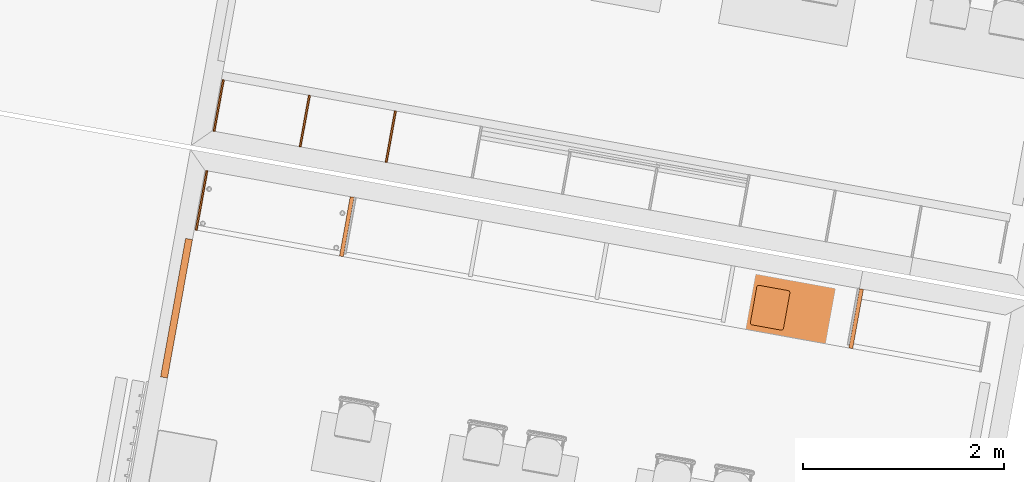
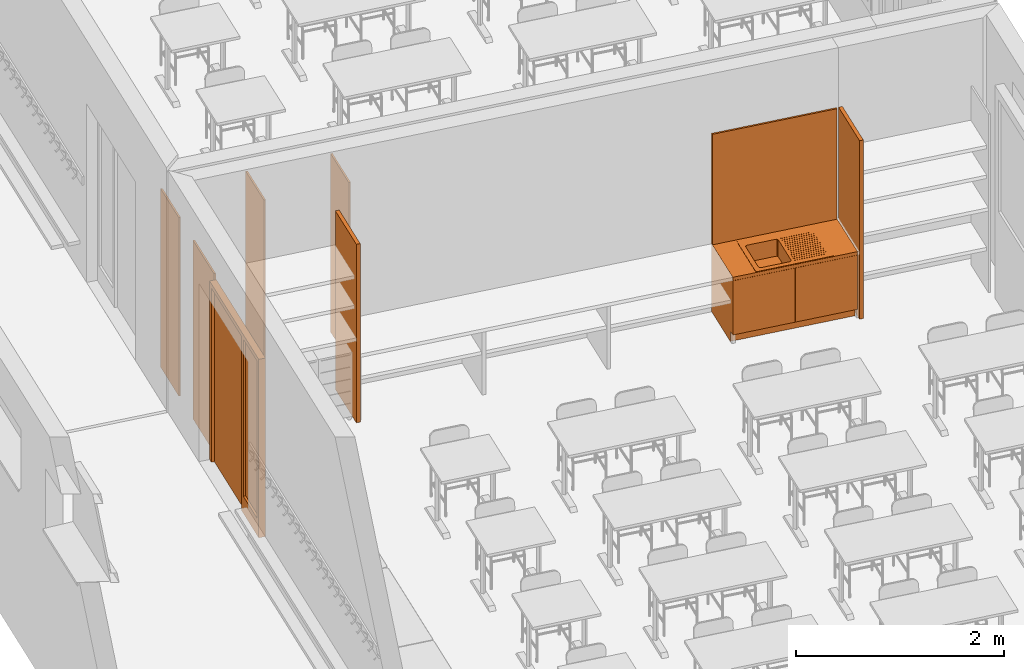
# One storey, part 39 of 79: 8 proxies.
"""IFC2X3 building model written with IfcOpenShell, lengths in metres."""

from ifc_helpers import new_model, entity, si_unit, converted_unit, derived_unit, money_unit, direction, frame, origin_with_axes, place, context, subcontext, project, spatial, polyline, outline, extrude, open_shell, faceted_brep, surface_model, source, transform, mapped, material, type_object, element, save


model = new_model("IFC2X3")

# Units and contexts
model_context = context("Model", 3, precision=1e-05, world=origin_with_axes(), true_north=direction((0.0, 1.0)))
body_context = subcontext(model_context, "Body", "Model", "MODEL_VIEW")
ifc_project = project(units=[si_unit("LENGTHUNIT", "METRE"), si_unit("AREAUNIT", "SQUARE_METRE"), si_unit("VOLUMEUNIT", "CUBIC_METRE"), converted_unit("PLANEANGLEUNIT", "DEGREE", entity("IfcPlaneAngleMeasure", 0.0174532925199), si_unit("PLANEANGLEUNIT", "RADIAN"), dimensions=[0, 0, 0, 0, 0, 0, 0]), money_unit("CHF"), converted_unit("TIMEUNIT", "Year", entity("IfcTimeMeasure", 31556926.0), si_unit("TIMEUNIT", "SECOND"), dimensions=[0, 0, 1, 0, 0, 0, 0]), si_unit("MASSUNIT", "GRAM", prefix="KILO"), si_unit("THERMODYNAMICTEMPERATUREUNIT", "DEGREE_CELSIUS"), si_unit("LUMINOUSINTENSITYUNIT", "LUMEN"), si_unit("ENERGYUNIT", "JOULE", prefix="MEGA"), derived_unit("THERMALCONDUCTANCEUNIT", [(si_unit("POWERUNIT", "WATT"), 1), (si_unit("LENGTHUNIT", "METRE"), -1), (si_unit("THERMODYNAMICTEMPERATUREUNIT", "KELVIN"), -1)]), derived_unit("SPECIFICHEATCAPACITYUNIT", [(si_unit("ENERGYUNIT", "JOULE"), 1), (si_unit("MASSUNIT", "GRAM", prefix="KILO"), -1), (si_unit("THERMODYNAMICTEMPERATUREUNIT", "KELVIN"), -1)]), derived_unit("MASSDENSITYUNIT", [(si_unit("MASSUNIT", "GRAM", prefix="KILO"), 1), (si_unit("VOLUMEUNIT", "CUBIC_METRE"), -1)])], contexts=[model_context])

# Site, building, storey
site_placement = place(None, frame((0.0, 0.0, 0.0), z_axis=(0.0, 0.0, 1.0), x_axis=(-0.177771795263, -0.984071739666, 0.0)))
site = spatial("IfcSite", under=ifc_project, at=site_placement, Name="Site", CompositionType="ELEMENT")
building_placement = place(site_placement, origin_with_axes())
building = spatial("IfcBuilding", under=site, at=building_placement, Name="Bâtiment", CompositionType="ELEMENT")
storey_placement = place(building_placement, origin_with_axes())
storey = spatial("IfcBuildingStorey", under=building, at=storey_placement, Name="RDC", CompositionType="ELEMENT", Elevation=0.0)

# Proxies
ifc_material_1 = material(Name="_panneau mélaminé")
building_element_proxy_type_1 = type_object("IfcBuildingElementProxyType", Name="_panneau mélaminé 40", PredefinedType="NOTDEFINED")
proxy_1_placement = place(storey_placement, frame((129.284841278, -149.826151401, 0.0), z_axis=(0.0, 0.0, 1.0), x_axis=(-1.0, 0.0, 0.0)))
element("IfcBuildingElementProxy", 1, at=proxy_1_placement, inside=storey, type_object=building_element_proxy_type_1, material=ifc_material_1, Name="cloison-fd-classe D", context=body_context, shape_type="SweptSolid", body=[
    extrude(outline(polyline([(0.0, -0.04), (0.600000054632, -0.04), (0.600000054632, 0.0), (0.0, 0.0), (0.0, -0.04)])), origin_with_axes(), (0.0, 0.0, 1.0), 2.1),
])
proxy_2_placement = place(storey_placement, frame((129.284841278, -154.978236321, 0.0), z_axis=(0.0, 0.0, 1.0), x_axis=(-1.0, 0.0, 0.0)))
element("IfcBuildingElementProxy", 2, at=proxy_2_placement, inside=storey, type_object=building_element_proxy_type_1, material=ifc_material_1, Name="cloison-fd-classe G", context=body_context, shape_type="SweptSolid", body=[
    extrude(outline(polyline([(0.0, -0.04), (0.600000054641, -0.04), (0.600000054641, 0.0), (0.0, 0.0), (0.0, -0.04)])), origin_with_axes(), (0.0, 0.0, 1.0), 2.1),
])
building_element_proxy_type_2 = type_object("IfcBuildingElementProxyType", Name="_panneau mélaminé 19", PredefinedType="NOTDEFINED")
proxy_3_placement = place(storey_placement, frame((129.284841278, -156.418151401, 0.0), z_axis=(0.0, 0.0, 1.0), x_axis=(-1.0, 0.0, 0.0)))
element("IfcBuildingElementProxy", 3, at=proxy_3_placement, inside=storey, type_object=building_element_proxy_type_2, material=ifc_material_1, Name="cloison-fd-classe G", context=body_context, shape_type="SweptSolid", body=[
    extrude(outline(polyline([(0.0, 0.0), (0.600000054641, 0.0), (0.600000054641, 0.019), (0.0, 0.019), (0.0, 0.0)])), origin_with_axes(), (0.0, 0.0, 1.0), 2.1),
])
for number, where, z_axis, x_axis, name in (
    (4, (128.284841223, -154.686651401, 0.0), (0.0, 0.0, 1.0), (-1.0, 0.0, 0.0), "cloison pl-classe"),
    (5, (128.284841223, -155.556651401, 0.0), (0.0, 0.0, 1.0), (-1.0, 0.0, 0.0), "cloison pl-classe"),
):
    element("IfcBuildingElementProxy", number, at=place(storey_placement, frame(where, z_axis=z_axis, x_axis=x_axis)), inside=storey, type_object=building_element_proxy_type_2, material=ifc_material_1, Name=name, context=body_context, shape_type="SweptSolid", body=[
        extrude(outline(polyline([(0.0, -0.0095), (0.519999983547, -0.0095), (0.519999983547, 0.0095), (0.0, 0.0095), (0.0, -0.0095)])), origin_with_axes(), (0.0, 0.0, 1.0), 2.1),
    ])
proxy_4_placement = place(storey_placement, frame((128.284841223, -156.418136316, 0.0), z_axis=(0.0, 0.0, 1.0), x_axis=(-1.0, 0.0, 0.0)))
element("IfcBuildingElementProxy", 6, at=proxy_4_placement, inside=storey, type_object=building_element_proxy_type_2, material=ifc_material_1, Name="cloison pl-classe", context=body_context, shape_type="SweptSolid", body=[
    extrude(outline(polyline([(0.0, 0.0), (0.519999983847, 0.0), (0.519999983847, 0.019), (0.0, 0.019), (0.0, 0.0)])), origin_with_axes(), (0.0, 0.0, 1.0), 2.1),
])
ifc_material_2 = material(Name="Matériau de construction IFC")
building_element_proxy_type_3 = type_object("IfcBuildingElementProxyType", Name="Porte avec tierce vitrée côté 2 21", PredefinedType="NOTDEFINED")
shared_shape_1 = source(origin_with_axes(), body_context, "Body", "SurfaceModel", [
    faceted_brep([(1.4, 0.18, 0.0), (1.4, 0.11, 0.0), (1.35, 0.11, 0.0), (1.35, 0.18, 0.0), (1.4, 0.18, 2.05), (1.4, 0.11, 2.05), (1.35, 0.11, 2.05), (1.35, 0.11, 0.2), (1.35, 0.18, 0.2), (1.35, 0.18, 2.05)], [[[0, 1, 2, 3]], [[4, 5, 1, 0]], [[1, 5, 6, 7, 2]], [[3, 2, 7, 8]], [[0, 3, 8, 9, 4]], [[9, 6, 5, 4]], [[8, 7, 6, 9]]]),
    faceted_brep([(0.91, 0.14, 0.0), (0.91, 0.11, 0.0), (0.91, 0.11, 2.05), (0.91, 0.14, 2.05), (0.93, 0.14, 0.0), (0.93, 0.18, 0.0), (0.96, 0.18, 0.0), (0.96, 0.11, 0.0), (0.96, 0.11, 0.2), (0.96, 0.11, 2.05), (0.93, 0.14, 2.05), (0.96, 0.18, 2.05), (0.93, 0.18, 2.05), (0.96, 0.18, 0.2)], [[[0, 1, 2, 3]], [[4, 5, 6, 7, 1, 0]], [[7, 8, 9, 2, 1]], [[10, 3, 2, 9, 11, 12]], [[10, 4, 0, 3]], [[12, 5, 4, 10]], [[12, 11, 13, 6, 5]], [[6, 13, 8, 7]], [[13, 11, 9, 8]]]),
    faceted_brep([(1.35, 0.18, 0.2), (1.35, 0.11, 0.2), (1.35, 0.11, 0.0), (1.35, 0.18, 0.0), (0.96, 0.18, 0.2), (0.96, 0.11, 0.2), (0.96, 0.11, 0.0), (0.96, 0.18, 0.0)], [[[0, 1, 2, 3]], [[4, 5, 1, 0]], [[1, 5, 6, 2]], [[3, 2, 6, 7]], [[0, 3, 7, 4]], [[7, 6, 5, 4]]]),
    faceted_brep([(0.03, 0.14, 2.05), (0.03, 0.18, 2.05), (0.0, 0.18, 2.05), (0.0, 0.11, 2.05), (0.05, 0.11, 2.05), (0.05, 0.14, 2.05), (0.03, 0.14, 0.0), (0.03, 0.18, 0.0), (0.0, 0.18, 0.0), (0.0, 0.11, 0.0), (0.05, 0.11, 0.0), (0.05, 0.14, 0.0)], [[[0, 1, 2, 3, 4, 5]], [[0, 6, 7, 1]], [[7, 8, 2, 1]], [[2, 8, 9, 3]], [[3, 9, 10, 4]], [[5, 4, 10, 11]], [[5, 11, 6, 0]], [[6, 11, 10, 9, 8, 7]]]),
    faceted_brep([(0.93, 0.18, 2.07), (0.03, 0.18, 2.07), (0.03, 0.18, 2.05), (0.0, 0.18, 2.05), (0.0, 0.18, 2.1), (1.4, 0.18, 2.1), (1.4, 0.18, 2.05), (1.35, 0.18, 2.05), (0.96, 0.18, 2.05), (0.93, 0.18, 2.05), (0.93, 0.14, 2.07), (0.03, 0.14, 2.07), (0.03, 0.14, 2.05), (0.05, 0.14, 2.05), (0.05, 0.11, 2.05), (0.0, 0.11, 2.05), (0.0, 0.11, 2.1), (1.4, 0.11, 2.1), (1.4, 0.11, 2.05), (1.35, 0.11, 2.05), (0.96, 0.11, 2.05), (0.93, 0.14, 2.05), (0.91, 0.11, 2.05)], [[[0, 1, 2, 3, 4, 5, 6, 7, 8, 9]], [[0, 10, 11, 1]], [[1, 11, 12, 2]], [[12, 13, 14, 15, 3, 2]], [[4, 3, 15, 16]], [[5, 4, 16, 17]], [[6, 5, 17, 18]], [[7, 6, 18, 19]], [[8, 7, 19, 20]], [[21, 9, 8, 20, 22, 14, 13]], [[9, 21, 10, 0]], [[12, 11, 10, 21, 13]], [[14, 22, 20, 19, 18, 17, 16, 15]]]),
    faceted_brep([(0.03, 0.18, 0.0), (0.93, 0.18, 0.0), (0.93, 0.14, 0.0), (0.03, 0.14, 0.0), (0.03, 0.18, 2.07), (0.93, 0.18, 2.07), (0.93, 0.14, 2.07), (0.03, 0.14, 2.07)], [[[0, 1, 2, 3]], [[0, 4, 5, 1]], [[1, 5, 6, 2]], [[3, 2, 6, 7]], [[4, 0, 3, 7]], [[5, 4, 7, 6]]]),
    surface_model("IfcShellBasedSurfaceModel", [(1.35, 0.145, 0.2), (0.96, 0.145, 0.2), (0.96, 0.145, 2.05), (1.35, 0.145, 2.05)], [open_shell([[[0, 1, 2, 3]]])]),
    surface_model("IfcShellBasedSurfaceModel", [(1.35, 0.135, 0.2), (1.35, 0.135, 2.05), (0.96, 0.135, 2.05), (0.96, 0.135, 0.2)], [open_shell([[[0, 1, 2, 3]]])]),
])
proxy_5_placement = place(storey_placement, frame((129.384841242, -156.62715131, 0.0), z_axis=(0.0, 0.0, 1.0), x_axis=(1.0, 1.02782532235e-07, 0.0)))
element("IfcBuildingElementProxy", 7, at=proxy_5_placement, inside=storey, type_object=building_element_proxy_type_3, material=ifc_material_2, Name="5", context=body_context, shape_type="MappedRepresentation", body=[
    mapped(shared_shape_1, transform((0.0, 0.0, 0.0))),
])
building_element_proxy_type_4 = type_object("IfcBuildingElementProxyType", Name="Elément simple avec deux portes 21", PredefinedType="NOTDEFINED")
shared_shape_2 = source(origin_with_axes(), body_context, "Body", "SurfaceModel", [
    surface_model("IfcShellBasedSurfaceModel", [(0.5, 0.600000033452, 0.733), (0.496505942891, 0.600000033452, 0.733460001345), (0.496505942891, 0.620000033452, 0.733460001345), (0.5, 0.620000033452, 0.733), (0.49325, 0.600000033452, 0.734808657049), (0.49325, 0.620000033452, 0.734808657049), (0.503494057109, 0.600000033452, 0.733460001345), (0.503494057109, 0.620000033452, 0.733460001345), (0.490454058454, 0.600000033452, 0.736954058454), (0.490454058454, 0.620000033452, 0.736954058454), (0.50675, 0.600000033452, 0.734808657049), (0.50675, 0.620000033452, 0.734808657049), (0.488308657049, 0.600000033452, 0.73975), (0.488308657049, 0.620000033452, 0.73975), (0.509545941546, 0.600000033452, 0.736954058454), (0.509545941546, 0.620000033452, 0.736954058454), (0.486960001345, 0.600000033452, 0.743005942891), (0.486960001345, 0.620000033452, 0.743005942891), (0.511691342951, 0.600000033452, 0.73975), (0.511691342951, 0.620000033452, 0.73975), (0.4865, 0.600000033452, 0.7465), (0.4865, 0.620000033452, 0.7465), (0.513039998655, 0.600000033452, 0.743005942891), (0.513039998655, 0.620000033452, 0.743005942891), (0.486960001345, 0.600000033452, 0.749994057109), (0.486960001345, 0.620000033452, 0.749994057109), (0.5135, 0.600000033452, 0.7465), (0.5135, 0.620000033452, 0.7465), (0.488308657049, 0.600000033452, 0.75325), (0.488308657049, 0.620000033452, 0.75325), (0.513039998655, 0.600000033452, 0.749994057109), (0.513039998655, 0.620000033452, 0.749994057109), (0.490454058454, 0.600000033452, 0.756045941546), (0.490454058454, 0.620000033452, 0.756045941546), (0.511691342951, 0.600000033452, 0.75325), (0.511691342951, 0.620000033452, 0.75325), (0.49325, 0.600000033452, 0.758191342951), (0.49325, 0.620000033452, 0.758191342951), (0.509545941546, 0.600000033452, 0.756045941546), (0.509545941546, 0.620000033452, 0.756045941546), (0.496505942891, 0.600000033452, 0.759539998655), (0.496505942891, 0.620000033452, 0.759539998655), (0.50675, 0.600000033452, 0.758191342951), (0.50675, 0.620000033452, 0.758191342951), (0.5, 0.600000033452, 0.76), (0.5, 0.620000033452, 0.76), (0.503494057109, 0.600000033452, 0.759539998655), (0.503494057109, 0.620000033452, 0.759539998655)], [open_shell([[[0, 1, 2, 3]], [[1, 4, 5, 2]], [[6, 0, 3, 7]], [[4, 8, 9, 5]], [[10, 6, 7, 11]], [[8, 12, 13, 9]], [[14, 10, 11, 15]], [[12, 16, 17, 13]], [[18, 14, 15, 19]], [[16, 20, 21, 17]], [[22, 18, 19, 23]], [[20, 24, 25, 21]], [[26, 22, 23, 27]], [[24, 28, 29, 25]], [[30, 26, 27, 31]], [[28, 32, 33, 29]], [[34, 30, 31, 35]], [[32, 36, 37, 33]], [[38, 34, 35, 39]], [[36, 40, 41, 37]], [[42, 38, 39, 43]], [[40, 44, 45, 41]], [[46, 42, 43, 47]], [[44, 46, 47, 45]]])]),
    surface_model("IfcShellBasedSurfaceModel", [(0.7, 0.600000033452, 0.733), (0.696505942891, 0.600000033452, 0.733460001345), (0.696505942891, 0.620000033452, 0.733460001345), (0.7, 0.620000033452, 0.733), (0.69325, 0.600000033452, 0.734808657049), (0.69325, 0.620000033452, 0.734808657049), (0.703494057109, 0.600000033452, 0.733460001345), (0.703494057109, 0.620000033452, 0.733460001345), (0.690454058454, 0.600000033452, 0.736954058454), (0.690454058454, 0.620000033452, 0.736954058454), (0.70675, 0.600000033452, 0.734808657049), (0.70675, 0.620000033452, 0.734808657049), (0.688308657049, 0.600000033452, 0.73975), (0.688308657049, 0.620000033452, 0.73975), (0.709545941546, 0.600000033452, 0.736954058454), (0.709545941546, 0.620000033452, 0.736954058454), (0.686960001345, 0.600000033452, 0.743005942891), (0.686960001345, 0.620000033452, 0.743005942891), (0.711691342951, 0.600000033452, 0.73975), (0.711691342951, 0.620000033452, 0.73975), (0.6865, 0.600000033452, 0.7465), (0.6865, 0.620000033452, 0.7465), (0.713039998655, 0.600000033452, 0.743005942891), (0.713039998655, 0.620000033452, 0.743005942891), (0.686960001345, 0.600000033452, 0.749994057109), (0.686960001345, 0.620000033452, 0.749994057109), (0.7135, 0.600000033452, 0.7465), (0.7135, 0.620000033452, 0.7465), (0.688308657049, 0.600000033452, 0.75325), (0.688308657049, 0.620000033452, 0.75325), (0.713039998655, 0.600000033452, 0.749994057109), (0.713039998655, 0.620000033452, 0.749994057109), (0.690454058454, 0.600000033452, 0.756045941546), (0.690454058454, 0.620000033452, 0.756045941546), (0.711691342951, 0.600000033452, 0.75325), (0.711691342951, 0.620000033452, 0.75325), (0.69325, 0.600000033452, 0.758191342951), (0.69325, 0.620000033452, 0.758191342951), (0.709545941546, 0.600000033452, 0.756045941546), (0.709545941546, 0.620000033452, 0.756045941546), (0.696505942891, 0.600000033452, 0.759539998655), (0.696505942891, 0.620000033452, 0.759539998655), (0.70675, 0.600000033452, 0.758191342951), (0.70675, 0.620000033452, 0.758191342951), (0.7, 0.600000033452, 0.76), (0.7, 0.620000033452, 0.76), (0.703494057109, 0.600000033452, 0.759539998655), (0.703494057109, 0.620000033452, 0.759539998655)], [open_shell([[[0, 1, 2, 3]], [[1, 4, 5, 2]], [[6, 0, 3, 7]], [[4, 8, 9, 5]], [[10, 6, 7, 11]], [[8, 12, 13, 9]], [[14, 10, 11, 15]], [[12, 16, 17, 13]], [[18, 14, 15, 19]], [[16, 20, 21, 17]], [[22, 18, 19, 23]], [[20, 24, 25, 21]], [[26, 22, 23, 27]], [[24, 28, 29, 25]], [[30, 26, 27, 31]], [[28, 32, 33, 29]], [[34, 30, 31, 35]], [[32, 36, 37, 33]], [[38, 34, 35, 39]], [[36, 40, 41, 37]], [[42, 38, 39, 43]], [[40, 44, 45, 41]], [[46, 42, 43, 47]], [[44, 46, 47, 45]]])]),
    surface_model("IfcShellBasedSurfaceModel", [(0.6, 0.600000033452, 0.579), (0.594564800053, 0.600000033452, 0.579715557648), (0.594564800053, 0.620000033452, 0.579715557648), (0.6, 0.620000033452, 0.579), (0.5895, 0.600000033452, 0.581813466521), (0.5895, 0.620000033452, 0.581813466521), (0.605435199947, 0.600000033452, 0.579715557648), (0.605435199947, 0.620000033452, 0.579715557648), (0.585150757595, 0.600000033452, 0.585150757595), (0.585150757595, 0.620000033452, 0.585150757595), (0.6105, 0.600000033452, 0.581813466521), (0.6105, 0.620000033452, 0.581813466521), (0.581813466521, 0.600000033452, 0.5895), (0.581813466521, 0.620000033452, 0.5895), (0.614849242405, 0.600000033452, 0.585150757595), (0.614849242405, 0.620000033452, 0.585150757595), (0.579715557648, 0.600000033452, 0.594564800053), (0.579715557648, 0.620000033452, 0.594564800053), (0.618186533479, 0.600000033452, 0.5895), (0.618186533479, 0.620000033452, 0.5895), (0.579, 0.600000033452, 0.6), (0.579, 0.620000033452, 0.6), (0.620284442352, 0.600000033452, 0.594564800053), (0.620284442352, 0.620000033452, 0.594564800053), (0.579715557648, 0.600000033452, 0.605435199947), (0.579715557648, 0.620000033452, 0.605435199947), (0.621, 0.600000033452, 0.6), (0.621, 0.620000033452, 0.6), (0.581813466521, 0.600000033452, 0.6105), (0.581813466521, 0.620000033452, 0.6105), (0.620284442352, 0.600000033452, 0.605435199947), (0.620284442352, 0.620000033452, 0.605435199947), (0.585150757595, 0.600000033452, 0.614849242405), (0.585150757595, 0.620000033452, 0.614849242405), (0.618186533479, 0.600000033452, 0.6105), (0.618186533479, 0.620000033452, 0.6105), (0.5895, 0.600000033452, 0.618186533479), (0.5895, 0.620000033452, 0.618186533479), (0.614849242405, 0.600000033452, 0.614849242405), (0.614849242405, 0.620000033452, 0.614849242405), (0.594564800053, 0.600000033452, 0.620284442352), (0.594564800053, 0.620000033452, 0.620284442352), (0.6105, 0.600000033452, 0.618186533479), (0.6105, 0.620000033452, 0.618186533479), (0.6, 0.600000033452, 0.621), (0.6, 0.620000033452, 0.621), (0.605435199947, 0.600000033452, 0.620284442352), (0.605435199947, 0.620000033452, 0.620284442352)], [open_shell([[[0, 1, 2, 3]], [[1, 4, 5, 2]], [[6, 0, 3, 7]], [[4, 8, 9, 5]], [[10, 6, 7, 11]], [[8, 12, 13, 9]], [[14, 10, 11, 15]], [[12, 16, 17, 13]], [[18, 14, 15, 19]], [[16, 20, 21, 17]], [[22, 18, 19, 23]], [[20, 24, 25, 21]], [[26, 22, 23, 27]], [[24, 28, 29, 25]], [[30, 26, 27, 31]], [[28, 32, 33, 29]], [[34, 30, 31, 35]], [[32, 36, 37, 33]], [[38, 34, 35, 39]], [[36, 40, 41, 37]], [[42, 38, 39, 43]], [[40, 44, 45, 41]], [[46, 42, 43, 47]], [[44, 46, 47, 45]]])]),
    faceted_brep([(0.0, 0.07, 0.0), (1.278, 0.07, 0.0), (1.278, 0.07, 0.12), (0.0, 0.07, 0.12), (0.0, 0.600000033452, 0.0), (1.278, 0.600000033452, 0.0), (1.278, 0.600000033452, 0.12), (0.0, 0.600000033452, 0.12)], [[[0, 1, 2, 3]], [[0, 4, 5, 1]], [[1, 5, 6, 2]], [[3, 2, 6, 7]], [[4, 0, 3, 7]], [[5, 4, 7, 6]]]),
    faceted_brep([(0.0, 0.02, 0.12), (0.02, 0.02, 0.12), (0.02, 0.02, 0.14), (0.0, 0.02, 0.14), (0.0, 0.600000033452, 0.12), (0.02, 0.600000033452, 0.12), (1.258, 0.600000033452, 0.12), (1.278, 0.600000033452, 0.12), (1.278, 0.02, 0.12), (1.258, 0.02, 0.12), (1.258, 0.02, 0.14), (1.278, 0.02, 0.14), (1.278, 0.600000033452, 0.14), (1.258, 0.600000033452, 0.14), (0.02, 0.600000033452, 0.14), (0.0, 0.600000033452, 0.14)], [[[0, 1, 2, 3]], [[0, 4, 5, 6, 7, 8, 9, 1]], [[1, 9, 10, 2]], [[3, 2, 10, 11, 12, 13, 14, 15]], [[4, 0, 3, 15]], [[5, 4, 15, 14]], [[6, 5, 14, 13]], [[7, 6, 13, 12]], [[8, 7, 12, 11]], [[9, 8, 11, 10]]]),
    faceted_brep([(0.0, 0.02, 0.14), (0.02, 0.02, 0.14), (0.02, 0.02, 0.76), (0.0, 0.02, 0.76), (0.0, 0.600000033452, 0.14), (1.278, 0.600000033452, 0.14), (1.278, 0.02, 0.14), (1.258, 0.02, 0.14), (1.258, 0.580000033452, 0.14), (0.02, 0.580000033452, 0.14), (0.02, 0.580000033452, 0.76), (1.258, 0.580000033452, 0.76), (1.258, 0.02, 0.76), (1.278, 0.02, 0.76), (1.278, 0.600000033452, 0.76), (0.0, 0.600000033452, 0.76)], [[[0, 1, 2, 3]], [[0, 4, 5, 6, 7, 8, 9, 1]], [[1, 9, 10, 2]], [[3, 2, 10, 11, 12, 13, 14, 15]], [[4, 0, 3, 15]], [[5, 4, 15, 14]], [[6, 5, 14, 13]], [[7, 6, 13, 12]], [[8, 7, 12, 11]], [[9, 8, 11, 10]]]),
    faceted_brep([(1.258, 0.02, 0.41), (1.258, 0.580000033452, 0.41), (1.258, 0.580000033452, 0.43), (1.258, 0.02, 0.43), (0.02, 0.02, 0.41), (0.02, 0.580000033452, 0.41), (0.02, 0.580000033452, 0.43), (0.02, 0.02, 0.43)], [[[0, 1, 2, 3]], [[0, 4, 5, 1]], [[1, 5, 6, 2]], [[3, 2, 6, 7]], [[4, 0, 3, 7]], [[5, 4, 7, 6]]]),
    surface_model("IfcShellBasedSurfaceModel", [(0.309, 0.0550000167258, 0.605), (0.604, 0.0550000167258, 0.605), (0.604, 0.0550000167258, 0.8), (0.309, 0.0550000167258, 0.8), (0.299, 0.0576795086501, 0.605), (0.291679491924, 0.0650000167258, 0.605), (0.289, 0.0750000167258, 0.605), (0.289, 0.435000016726, 0.605), (0.291679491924, 0.445000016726, 0.605), (0.299, 0.452320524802, 0.605), (0.309, 0.455000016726, 0.605), (0.604, 0.455000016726, 0.605), (0.614, 0.452320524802, 0.605), (0.621320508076, 0.445000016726, 0.605), (0.624, 0.435000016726, 0.605), (0.624, 0.0750000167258, 0.605), (0.618142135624, 0.0608578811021, 0.605), (0.618142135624, 0.0608578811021, 0.8), (0.299, 0.0576795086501, 0.8), (0.291679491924, 0.0650000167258, 0.8), (0.289, 0.0750000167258, 0.8), (0.289, 0.435000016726, 0.8), (0.291679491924, 0.445000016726, 0.8), (0.299, 0.452320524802, 0.8), (0.309, 0.455000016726, 0.8), (0.604, 0.455000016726, 0.8), (0.614, 0.452320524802, 0.8), (0.621320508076, 0.445000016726, 0.8), (0.624, 0.435000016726, 0.8), (0.624, 0.0750000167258, 0.8)], [open_shell([[[0, 1, 2, 3]], [[0, 4, 5, 6, 7, 8, 9, 10, 11, 12, 13, 14, 15, 16, 1]], [[1, 16, 17, 2]], [[4, 0, 3, 18]], [[5, 4, 18, 19]], [[6, 5, 19, 20]], [[7, 6, 20, 21]], [[8, 7, 21, 22]], [[9, 8, 22, 23]], [[10, 9, 23, 24]], [[11, 10, 24, 25]], [[12, 11, 25, 26]], [[13, 12, 26, 27]], [[14, 13, 27, 28]], [[15, 14, 28, 29]], [[16, 15, 29, 17]]])]),
    faceted_brep([(0.259, 0.00500001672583, 0.8), (1.019, 0.00500001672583, 0.8), (1.019, 0.00500001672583, 0.805), (0.259, 0.00500001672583, 0.805), (0.249, 0.00767950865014, 0.8), (0.241679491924, 0.0150000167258, 0.8), (0.239, 0.0250000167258, 0.8), (0.239, 0.535000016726, 0.8), (0.241679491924, 0.545000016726, 0.8), (0.249, 0.552320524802, 0.8), (0.259, 0.555000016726, 0.8), (1.019, 0.555000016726, 0.8), (1.029, 0.552320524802, 0.8), (1.03632050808, 0.545000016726, 0.8), (1.039, 0.535000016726, 0.8), (1.039, 0.0250000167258, 0.8), (1.03314213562, 0.0108578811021, 0.8), (0.309, 0.0550000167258, 0.8), (0.604, 0.0550000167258, 0.8), (0.618142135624, 0.0608578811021, 0.8), (0.624, 0.0750000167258, 0.8), (0.624, 0.435000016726, 0.8), (0.621320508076, 0.445000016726, 0.8), (0.614, 0.452320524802, 0.8), (0.604, 0.455000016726, 0.8), (0.309, 0.455000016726, 0.8), (0.299, 0.452320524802, 0.8), (0.291679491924, 0.445000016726, 0.8), (0.289, 0.435000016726, 0.8), (0.289, 0.0750000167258, 0.8), (0.291679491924, 0.0650000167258, 0.8), (0.299, 0.0576795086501, 0.8), (1.03314213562, 0.0108578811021, 0.805), (1.039, 0.0250000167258, 0.805), (1.039, 0.535000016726, 0.805), (1.03632050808, 0.545000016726, 0.805), (1.029, 0.552320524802, 0.805), (1.019, 0.555000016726, 0.805), (0.259, 0.555000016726, 0.805), (0.249, 0.552320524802, 0.805), (0.241679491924, 0.545000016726, 0.805), (0.239, 0.535000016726, 0.805), (0.239, 0.0250000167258, 0.805), (0.241679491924, 0.0150000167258, 0.805), (0.249, 0.00767950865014, 0.805), (0.309, 0.0550000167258, 0.805), (0.299, 0.0576795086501, 0.805), (0.291679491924, 0.0650000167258, 0.805), (0.289, 0.0750000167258, 0.805), (0.289, 0.435000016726, 0.805), (0.291679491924, 0.445000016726, 0.805), (0.299, 0.452320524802, 0.805), (0.309, 0.455000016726, 0.805), (0.604, 0.455000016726, 0.805), (0.614, 0.452320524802, 0.805), (0.621320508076, 0.445000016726, 0.805), (0.624, 0.435000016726, 0.805), (0.624, 0.0750000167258, 0.805), (0.618142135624, 0.0608578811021, 0.805), (0.604, 0.0550000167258, 0.805)], [[[0, 1, 2, 3]], [[0, 4, 5, 6, 7, 8, 9, 10, 11, 12, 13, 14, 15, 16, 1], [17, 18, 19, 20, 21, 22, 23, 24, 25, 26, 27, 28, 29, 30, 31]], [[1, 16, 32, 2]], [[3, 2, 32, 33, 34, 35, 36, 37, 38, 39, 40, 41, 42, 43, 44], [45, 46, 47, 48, 49, 50, 51, 52, 53, 54, 55, 56, 57, 58, 59]], [[4, 0, 3, 44]], [[5, 4, 44, 43]], [[6, 5, 43, 42]], [[7, 6, 42, 41]], [[8, 7, 41, 40]], [[9, 8, 40, 39]], [[10, 9, 39, 38]], [[11, 10, 38, 37]], [[12, 11, 37, 36]], [[13, 12, 36, 35]], [[14, 13, 35, 34]], [[15, 14, 34, 33]], [[16, 15, 33, 32]], [[18, 17, 45, 59]], [[19, 18, 59, 58]], [[20, 19, 58, 57]], [[21, 20, 57, 56]], [[22, 21, 56, 55]], [[23, 22, 55, 54]], [[24, 23, 54, 53]], [[25, 24, 53, 52]], [[26, 25, 52, 51]], [[27, 26, 51, 50]], [[28, 27, 50, 49]], [[29, 28, 49, 48]], [[30, 29, 48, 47]], [[31, 30, 47, 46]], [[17, 31, 46, 45]]]),
    faceted_brep([(0.654, 0.0600000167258, 0.805), (0.959, 0.0600000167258, 0.805), (0.959, 0.0600000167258, 0.807), (0.654, 0.0600000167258, 0.807), (0.654, 0.0650000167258, 0.805), (0.959, 0.0650000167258, 0.805), (0.959, 0.0650000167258, 0.807), (0.654, 0.0650000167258, 0.807)], [[[0, 1, 2, 3]], [[0, 4, 5, 1]], [[1, 5, 6, 2]], [[3, 2, 6, 7]], [[4, 0, 3, 7]], [[5, 4, 7, 6]]]),
    faceted_brep([(0.654, 0.0925000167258, 0.805), (0.989, 0.0925000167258, 0.805), (0.989, 0.0925000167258, 0.807), (0.654, 0.0925000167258, 0.807), (0.654, 0.0975000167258, 0.805), (0.989, 0.0975000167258, 0.805), (0.989, 0.0975000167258, 0.807), (0.654, 0.0975000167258, 0.807)], [[[0, 1, 2, 3]], [[0, 4, 5, 1]], [[1, 5, 6, 2]], [[3, 2, 6, 7]], [[4, 0, 3, 7]], [[5, 4, 7, 6]]]),
    faceted_brep([(0.654, 0.125000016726, 0.805), (0.989, 0.125000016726, 0.805), (0.989, 0.125000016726, 0.807), (0.654, 0.125000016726, 0.807), (0.654, 0.130000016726, 0.805), (0.989, 0.130000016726, 0.805), (0.989, 0.130000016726, 0.807), (0.654, 0.130000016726, 0.807)], [[[0, 1, 2, 3]], [[0, 4, 5, 1]], [[1, 5, 6, 2]], [[3, 2, 6, 7]], [[4, 0, 3, 7]], [[5, 4, 7, 6]]]),
    faceted_brep([(0.654, 0.157500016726, 0.805), (0.989, 0.157500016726, 0.805), (0.989, 0.157500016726, 0.807), (0.654, 0.157500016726, 0.807), (0.654, 0.162500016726, 0.805), (0.989, 0.162500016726, 0.805), (0.989, 0.162500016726, 0.807), (0.654, 0.162500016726, 0.807)], [[[0, 1, 2, 3]], [[0, 4, 5, 1]], [[1, 5, 6, 2]], [[3, 2, 6, 7]], [[4, 0, 3, 7]], [[5, 4, 7, 6]]]),
    faceted_brep([(0.654, 0.190000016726, 0.805), (0.989, 0.190000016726, 0.805), (0.989, 0.190000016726, 0.807), (0.654, 0.190000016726, 0.807), (0.654, 0.195000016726, 0.805), (0.989, 0.195000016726, 0.805), (0.989, 0.195000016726, 0.807), (0.654, 0.195000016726, 0.807)], [[[0, 1, 2, 3]], [[0, 4, 5, 1]], [[1, 5, 6, 2]], [[3, 2, 6, 7]], [[4, 0, 3, 7]], [[5, 4, 7, 6]]]),
    faceted_brep([(0.654, 0.222500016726, 0.805), (0.989, 0.222500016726, 0.805), (0.989, 0.222500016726, 0.807), (0.654, 0.222500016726, 0.807), (0.654, 0.227500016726, 0.805), (0.989, 0.227500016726, 0.805), (0.989, 0.227500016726, 0.807), (0.654, 0.227500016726, 0.807)], [[[0, 1, 2, 3]], [[0, 4, 5, 1]], [[1, 5, 6, 2]], [[3, 2, 6, 7]], [[4, 0, 3, 7]], [[5, 4, 7, 6]]]),
    faceted_brep([(0.654, 0.255000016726, 0.805), (0.989, 0.255000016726, 0.805), (0.989, 0.255000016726, 0.807), (0.654, 0.255000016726, 0.807), (0.654, 0.260000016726, 0.805), (0.989, 0.260000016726, 0.805), (0.989, 0.260000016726, 0.807), (0.654, 0.260000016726, 0.807)], [[[0, 1, 2, 3]], [[0, 4, 5, 1]], [[1, 5, 6, 2]], [[3, 2, 6, 7]], [[4, 0, 3, 7]], [[5, 4, 7, 6]]]),
    faceted_brep([(0.654, 0.287500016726, 0.805), (0.989, 0.287500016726, 0.805), (0.989, 0.287500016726, 0.807), (0.654, 0.287500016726, 0.807), (0.654, 0.292500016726, 0.805), (0.989, 0.292500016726, 0.805), (0.989, 0.292500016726, 0.807), (0.654, 0.292500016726, 0.807)], [[[0, 1, 2, 3]], [[0, 4, 5, 1]], [[1, 5, 6, 2]], [[3, 2, 6, 7]], [[4, 0, 3, 7]], [[5, 4, 7, 6]]]),
    faceted_brep([(0.654, 0.320000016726, 0.805), (0.989, 0.320000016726, 0.805), (0.989, 0.320000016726, 0.807), (0.654, 0.320000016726, 0.807), (0.654, 0.325000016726, 0.805), (0.989, 0.325000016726, 0.805), (0.989, 0.325000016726, 0.807), (0.654, 0.325000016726, 0.807)], [[[0, 1, 2, 3]], [[0, 4, 5, 1]], [[1, 5, 6, 2]], [[3, 2, 6, 7]], [[4, 0, 3, 7]], [[5, 4, 7, 6]]]),
    faceted_brep([(0.654, 0.352500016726, 0.805), (0.989, 0.352500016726, 0.805), (0.989, 0.352500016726, 0.807), (0.654, 0.352500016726, 0.807), (0.654, 0.357500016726, 0.805), (0.989, 0.357500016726, 0.805), (0.989, 0.357500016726, 0.807), (0.654, 0.357500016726, 0.807)], [[[0, 1, 2, 3]], [[0, 4, 5, 1]], [[1, 5, 6, 2]], [[3, 2, 6, 7]], [[4, 0, 3, 7]], [[5, 4, 7, 6]]]),
    faceted_brep([(0.654, 0.385000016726, 0.805), (0.989, 0.385000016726, 0.805), (0.989, 0.385000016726, 0.807), (0.654, 0.385000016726, 0.807), (0.654, 0.390000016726, 0.805), (0.989, 0.390000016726, 0.805), (0.989, 0.390000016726, 0.807), (0.654, 0.390000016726, 0.807)], [[[0, 1, 2, 3]], [[0, 4, 5, 1]], [[1, 5, 6, 2]], [[3, 2, 6, 7]], [[4, 0, 3, 7]], [[5, 4, 7, 6]]]),
    faceted_brep([(0.654, 0.417500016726, 0.805), (0.989, 0.417500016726, 0.805), (0.989, 0.417500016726, 0.807), (0.654, 0.417500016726, 0.807), (0.654, 0.422500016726, 0.805), (0.989, 0.422500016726, 0.805), (0.989, 0.422500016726, 0.807), (0.654, 0.422500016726, 0.807)], [[[0, 1, 2, 3]], [[0, 4, 5, 1]], [[1, 5, 6, 2]], [[3, 2, 6, 7]], [[4, 0, 3, 7]], [[5, 4, 7, 6]]]),
    faceted_brep([(0.654, 0.450000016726, 0.805), (0.959, 0.450000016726, 0.805), (0.959, 0.450000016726, 0.807), (0.654, 0.450000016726, 0.807), (0.654, 0.455000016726, 0.805), (0.959, 0.455000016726, 0.805), (0.959, 0.455000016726, 0.807), (0.654, 0.455000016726, 0.807)], [[[0, 1, 2, 3]], [[0, 4, 5, 1]], [[1, 5, 6, 2]], [[3, 2, 6, 7]], [[4, 0, 3, 7]], [[5, 4, 7, 6]]]),
    faceted_brep([(0.0, 0.0, 0.76), (1.278, 0.0, 0.76), (1.278, 0.0, 0.8), (0.0, 0.0, 0.8), (0.0, 0.600000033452, 0.76), (1.278, 0.600000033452, 0.76), (0.264, 0.0500000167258, 0.76), (1.014, 0.0500000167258, 0.76), (1.014, 0.535000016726, 0.76), (0.264, 0.535000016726, 0.76), (1.278, 0.600000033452, 0.8), (0.0, 0.600000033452, 0.8), (0.264, 0.0500000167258, 0.8), (0.264, 0.535000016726, 0.8), (1.014, 0.535000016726, 0.8), (1.014, 0.0500000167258, 0.8)], [[[0, 1, 2, 3]], [[0, 4, 5, 1], [6, 7, 8, 9]], [[1, 5, 10, 2]], [[3, 2, 10, 11], [12, 13, 14, 15]], [[4, 0, 3, 11]], [[5, 4, 11, 10]], [[7, 6, 12, 15]], [[8, 7, 15, 14]], [[9, 8, 14, 13]], [[6, 9, 13, 12]]]),
    faceted_brep([(0.0, 0.580000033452, 0.8), (1.278, 0.580000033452, 0.8), (1.278, 0.580000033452, 2.1), (0.0, 0.580000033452, 2.1), (0.0, 0.600000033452, 0.8), (1.278, 0.600000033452, 0.8), (1.278, 0.600000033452, 2.1), (0.0, 0.600000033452, 2.1)], [[[0, 1, 2, 3]], [[0, 4, 5, 1]], [[1, 5, 6, 2]], [[3, 2, 6, 7]], [[4, 0, 3, 7]], [[5, 4, 7, 6]]]),
    faceted_brep([(0.0015, 0.02, 0.1215), (0.6375, 0.02, 0.1215), (0.6375, 0.0, 0.1215), (0.0015, 0.0, 0.1215), (0.0015, 0.02, 0.7585), (0.6375, 0.02, 0.7585), (0.6375, 0.0, 0.7585), (0.0015, 0.0, 0.7585)], [[[0, 1, 2, 3]], [[0, 4, 5, 1]], [[1, 5, 6, 2]], [[3, 2, 6, 7]], [[4, 0, 3, 7]], [[5, 4, 7, 6]]]),
    faceted_brep([(1.2765, 0.02, 0.1215), (1.2765, 0.0, 0.1215), (0.6405, 0.0, 0.1215), (0.6405, 0.02, 0.1215), (1.2765, 0.02, 0.7585), (1.2765, 0.0, 0.7585), (0.6405, 0.0, 0.7585), (0.6405, 0.02, 0.7585)], [[[0, 1, 2, 3]], [[4, 5, 1, 0]], [[1, 5, 6, 2]], [[3, 2, 6, 7]], [[0, 3, 7, 4]], [[7, 6, 5, 4]]]),
])
proxy_6_placement = place(storey_placement, frame((129.28484124, -151.124151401, 0.0), z_axis=(0.0, 0.0, 1.0), x_axis=(0.0, 1.0, 0.0)))
element("IfcBuildingElementProxy", 8, at=proxy_6_placement, inside=storey, type_object=building_element_proxy_type_4, material=ifc_material_2, Name="evier-classe", context=body_context, shape_type="MappedRepresentation", body=[
    mapped(shared_shape_2, transform((0.0, 0.0, 0.0))),
])

save(model, "model.ifc")
